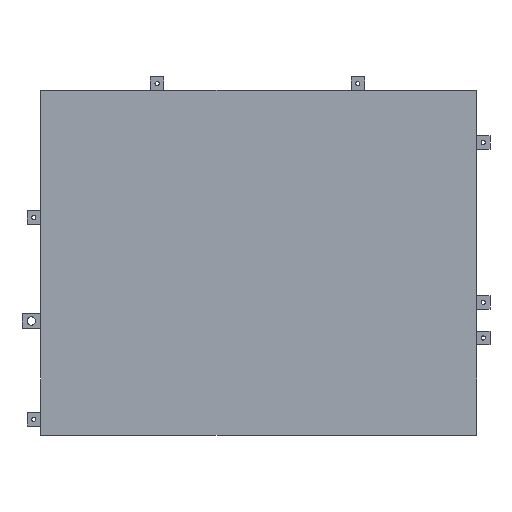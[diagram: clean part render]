
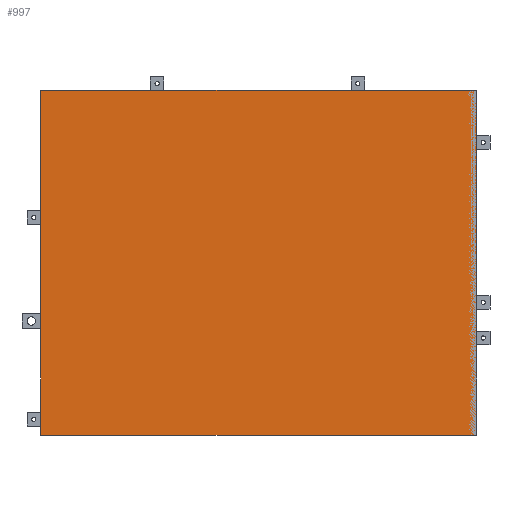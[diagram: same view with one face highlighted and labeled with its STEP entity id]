
A CAD part, left-side view. The second image highlights one B-rep face of the part: STEP entity #997.
In plain terms, the highlighted planar face has unit normal (-1, 0, 0).
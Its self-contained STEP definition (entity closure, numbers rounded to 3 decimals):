
#688 = VERTEX_POINT('',#689);
#689 = CARTESIAN_POINT('',(0.,0.,166.53));
#698 = PLANE('',#699);
#699 = AXIS2_PLACEMENT_3D('',#700,#701,#702);
#700 = CARTESIAN_POINT('',(0.,0.,166.53));
#701 = DIRECTION('',(0.,0.,1.));
#702 = DIRECTION('',(0.,1.,0.));
#710 = PLANE('',#711);
#711 = AXIS2_PLACEMENT_3D('',#712,#713,#714);
#712 = CARTESIAN_POINT('',(0.,0.,0.));
#713 = DIRECTION('',(0.,-1.,0.));
#714 = DIRECTION('',(0.,0.,1.));
#751 = VERTEX_POINT('',#752);
#752 = CARTESIAN_POINT('',(0.,210.53,166.53));
#766 = PLANE('',#767);
#767 = AXIS2_PLACEMENT_3D('',#768,#769,#770);
#768 = CARTESIAN_POINT('',(0.,210.53,166.53));
#769 = DIRECTION('',(0.,1.,0.));
#770 = DIRECTION('',(0.,0.,-1.));
#778 = EDGE_CURVE('',#688,#751,#779,.T.);
#779 = SURFACE_CURVE('',#780,(#784,#791),.PCURVE_S1.);
#780 = LINE('',#781,#782);
#781 = CARTESIAN_POINT('',(0.,0.,166.53));
#782 = VECTOR('',#783,1.);
#783 = DIRECTION('',(0.,1.,0.));
#784 = PCURVE('',#698,#785);
#785 = DEFINITIONAL_REPRESENTATION('',(#786),#790);
#786 = LINE('',#787,#788);
#787 = CARTESIAN_POINT('',(0.,0.));
#788 = VECTOR('',#789,1.);
#789 = DIRECTION('',(1.,0.));
#790 = ( GEOMETRIC_REPRESENTATION_CONTEXT(2) 
PARAMETRIC_REPRESENTATION_CONTEXT() REPRESENTATION_CONTEXT('2D SPACE',''
  ) );
#791 = PCURVE('',#792,#797);
#792 = PLANE('',#793);
#793 = AXIS2_PLACEMENT_3D('',#794,#795,#796);
#794 = CARTESIAN_POINT('',(0.,105.265,83.265));
#795 = DIRECTION('',(-1.,-0.,0.));
#796 = DIRECTION('',(0.,0.,-1.));
#797 = DEFINITIONAL_REPRESENTATION('',(#798),#802);
#798 = LINE('',#799,#800);
#799 = CARTESIAN_POINT('',(-83.265,105.265));
#800 = VECTOR('',#801,1.);
#801 = DIRECTION('',(0.,-1.));
#802 = ( GEOMETRIC_REPRESENTATION_CONTEXT(2) 
PARAMETRIC_REPRESENTATION_CONTEXT() REPRESENTATION_CONTEXT('2D SPACE',''
  ) );
#832 = VERTEX_POINT('',#833);
#833 = CARTESIAN_POINT('',(0.,210.53,0.));
#847 = PLANE('',#848);
#848 = AXIS2_PLACEMENT_3D('',#849,#850,#851);
#849 = CARTESIAN_POINT('',(0.,210.53,0.));
#850 = DIRECTION('',(0.,0.,-1.));
#851 = DIRECTION('',(0.,-1.,0.));
#859 = EDGE_CURVE('',#751,#832,#860,.T.);
#860 = SURFACE_CURVE('',#861,(#865,#872),.PCURVE_S1.);
#861 = LINE('',#862,#863);
#862 = CARTESIAN_POINT('',(0.,210.53,166.53));
#863 = VECTOR('',#864,1.);
#864 = DIRECTION('',(0.,0.,-1.));
#865 = PCURVE('',#766,#866);
#866 = DEFINITIONAL_REPRESENTATION('',(#867),#871);
#867 = LINE('',#868,#869);
#868 = CARTESIAN_POINT('',(0.,0.));
#869 = VECTOR('',#870,1.);
#870 = DIRECTION('',(1.,0.));
#871 = ( GEOMETRIC_REPRESENTATION_CONTEXT(2) 
PARAMETRIC_REPRESENTATION_CONTEXT() REPRESENTATION_CONTEXT('2D SPACE',''
  ) );
#872 = PCURVE('',#792,#873);
#873 = DEFINITIONAL_REPRESENTATION('',(#874),#878);
#874 = LINE('',#875,#876);
#875 = CARTESIAN_POINT('',(-83.265,-105.265));
#876 = VECTOR('',#877,1.);
#877 = DIRECTION('',(1.,0.));
#878 = ( GEOMETRIC_REPRESENTATION_CONTEXT(2) 
PARAMETRIC_REPRESENTATION_CONTEXT() REPRESENTATION_CONTEXT('2D SPACE',''
  ) );
#908 = VERTEX_POINT('',#909);
#909 = CARTESIAN_POINT('',(0.,0.,0.));
#930 = EDGE_CURVE('',#832,#908,#931,.T.);
#931 = SURFACE_CURVE('',#932,(#936,#943),.PCURVE_S1.);
#932 = LINE('',#933,#934);
#933 = CARTESIAN_POINT('',(0.,210.53,0.));
#934 = VECTOR('',#935,1.);
#935 = DIRECTION('',(0.,-1.,0.));
#936 = PCURVE('',#847,#937);
#937 = DEFINITIONAL_REPRESENTATION('',(#938),#942);
#938 = LINE('',#939,#940);
#939 = CARTESIAN_POINT('',(0.,0.));
#940 = VECTOR('',#941,1.);
#941 = DIRECTION('',(1.,0.));
#942 = ( GEOMETRIC_REPRESENTATION_CONTEXT(2) 
PARAMETRIC_REPRESENTATION_CONTEXT() REPRESENTATION_CONTEXT('2D SPACE',''
  ) );
#943 = PCURVE('',#792,#944);
#944 = DEFINITIONAL_REPRESENTATION('',(#945),#949);
#945 = LINE('',#946,#947);
#946 = CARTESIAN_POINT('',(83.265,-105.265));
#947 = VECTOR('',#948,1.);
#948 = DIRECTION('',(0.,1.));
#949 = ( GEOMETRIC_REPRESENTATION_CONTEXT(2) 
PARAMETRIC_REPRESENTATION_CONTEXT() REPRESENTATION_CONTEXT('2D SPACE',''
  ) );
#977 = EDGE_CURVE('',#908,#688,#978,.T.);
#978 = SURFACE_CURVE('',#979,(#983,#990),.PCURVE_S1.);
#979 = LINE('',#980,#981);
#980 = CARTESIAN_POINT('',(0.,0.,0.));
#981 = VECTOR('',#982,1.);
#982 = DIRECTION('',(0.,0.,1.));
#983 = PCURVE('',#710,#984);
#984 = DEFINITIONAL_REPRESENTATION('',(#985),#989);
#985 = LINE('',#986,#987);
#986 = CARTESIAN_POINT('',(0.,0.));
#987 = VECTOR('',#988,1.);
#988 = DIRECTION('',(1.,0.));
#989 = ( GEOMETRIC_REPRESENTATION_CONTEXT(2) 
PARAMETRIC_REPRESENTATION_CONTEXT() REPRESENTATION_CONTEXT('2D SPACE',''
  ) );
#990 = PCURVE('',#792,#991);
#991 = DEFINITIONAL_REPRESENTATION('',(#992),#996);
#992 = LINE('',#993,#994);
#993 = CARTESIAN_POINT('',(83.265,105.265));
#994 = VECTOR('',#995,1.);
#995 = DIRECTION('',(-1.,0.));
#996 = ( GEOMETRIC_REPRESENTATION_CONTEXT(2) 
PARAMETRIC_REPRESENTATION_CONTEXT() REPRESENTATION_CONTEXT('2D SPACE',''
  ) );
#997 = ADVANCED_FACE('',(#998),#792,.T.);
#998 = FACE_BOUND('',#999,.T.);
#999 = EDGE_LOOP('',(#1000,#1001,#1002,#1003));
#1000 = ORIENTED_EDGE('',*,*,#778,.T.);
#1001 = ORIENTED_EDGE('',*,*,#859,.T.);
#1002 = ORIENTED_EDGE('',*,*,#930,.T.);
#1003 = ORIENTED_EDGE('',*,*,#977,.T.);
